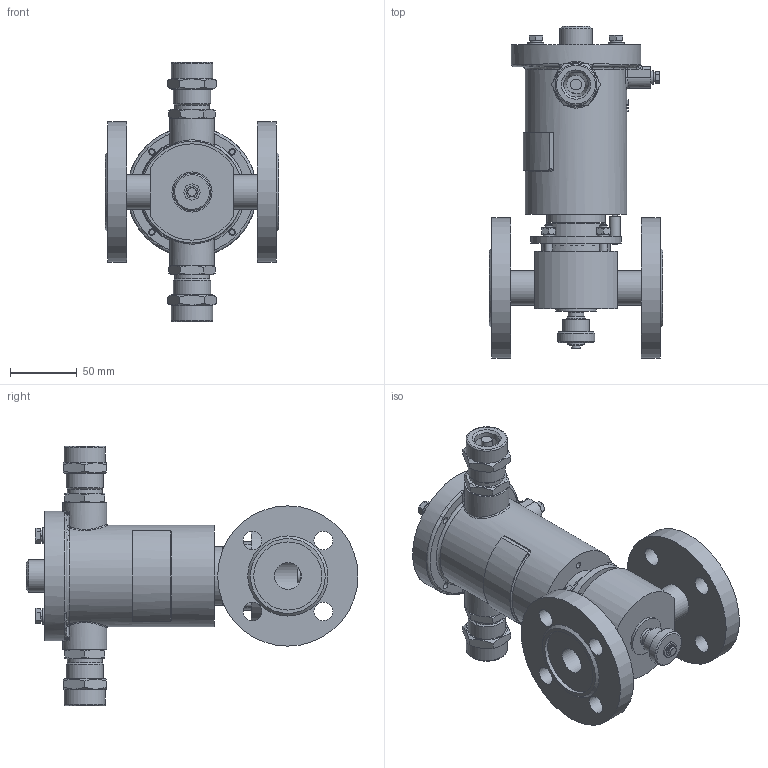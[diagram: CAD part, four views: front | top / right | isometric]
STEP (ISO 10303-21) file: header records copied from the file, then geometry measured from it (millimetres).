
FILE_DESCRIPTION(('STEP AP203'), '1');
FILE_NAME('ÑÅÍÑ DN20PN25-ÍÎ-ÑÂ.stp', '2018-09-19T08:39:27', ('Îðëîâ Å.Â.'), ('ÎÎÎ ÍÏÏ Ñåíñîð'), 'ASCON STEP Converter 1.3', 'Kompas 3D', '');
FILE_SCHEMA(('CONFIG_CONTROL_DESIGN','SUPPORT_RESOURCE_SCHEMA'));
Length unit declared in the file: millimetre
Products named in the file (1): 29
Bounding box: 130 x 248.5 x 194 mm (x, y, z)
Volume: 776083.9 mm3; surface area: 230103.5 mm2
Topology: 3 solids, 21 shells, 1878 faces, 4966 edges, 3244 vertices
Faces by surface type: cylinder 983, plane 705, cone 126, bspline 27, torus 21, extrusion 16
Full cylindrical faces by diameter (mm): 2.459 x4, 4 x8, 4.134 x1, 4.5 x2, 4.917 x4, 5 x2, 5.1 x1, 6 x15, 6.3 x2, 6.4 x1, 6.5 x11, 8 x8, 10 x3, 11.8 x1, 12 x5, 12.4 x1, 13 x2, 14 x9, 16 x1, 16.5 x1, 18.632 x2, 20 x5, 22 x2, 22.376 x2, 23.5 x3, 24 x3, 24.5 x3, 25 x2, 26 x9, 26.376 x2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
Entity records: 70843 total; most frequent: CARTESIAN_POINT 22899, DIRECTION 10436, ORIENTED_EDGE 9892, EDGE_CURVE 4946, AXIS2_PLACEMENT_3D 4010, VERTEX_POINT 3240, VECTOR 2416, LINE 2400
